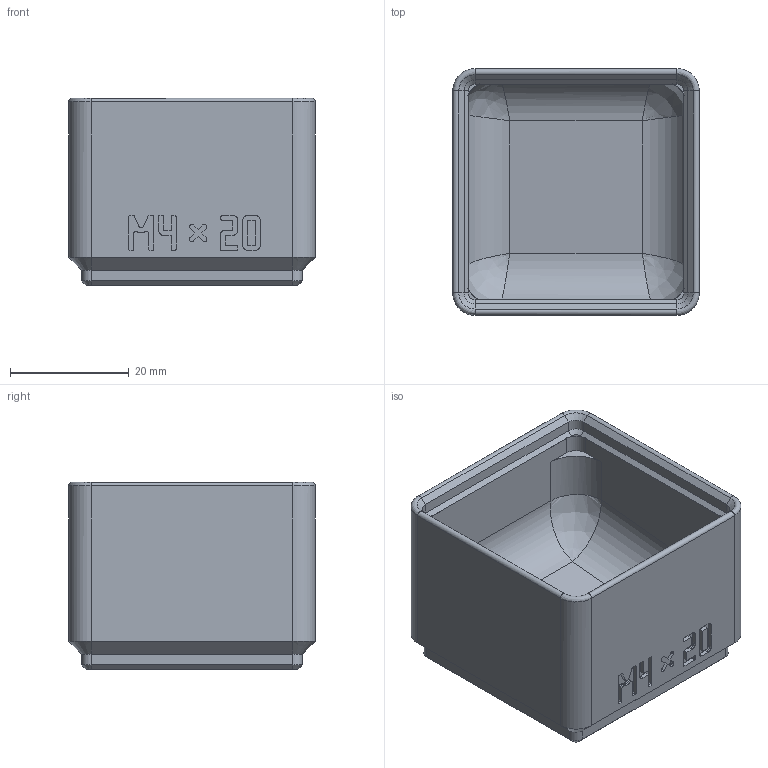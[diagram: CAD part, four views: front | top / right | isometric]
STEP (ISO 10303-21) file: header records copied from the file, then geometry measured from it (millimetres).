
FILE_DESCRIPTION(('Open CASCADE Model'),'2;1');
FILE_NAME('Open CASCADE Shape Model','2026-11-03T17:57:55',('Author'),( 'Open CASCADE'),'Open CASCADE STEP processor 8.0','build123d', 'Unknown');
FILE_SCHEMA(('AUTOMOTIVE_DESIGN { 1 0 10303 214 1 1 1 1 }'));
Length unit declared in the file: millimetre
Products named in the file (1): COMPOUND
Bounding box: 41.5 x 41.5 x 31.55 mm (x, y, z)
Volume: 18947.6 mm3; surface area: 11347 mm2
Topology: 1 solids, 1 shells, 589 faces, 1655 edges, 1070 vertices
Faces by surface type: plane 525, cylinder 36, cone 20, bspline 8
Entity records: 41502 total; most frequent: CARTESIAN_POINT 10445, DIRECTION 5061, LINE 3767, VECTOR 3767, ORIENTED_EDGE 3302, PCURVE 3302, DEFINITIONAL_REPRESENTATION 3302, EDGE_CURVE 1651
